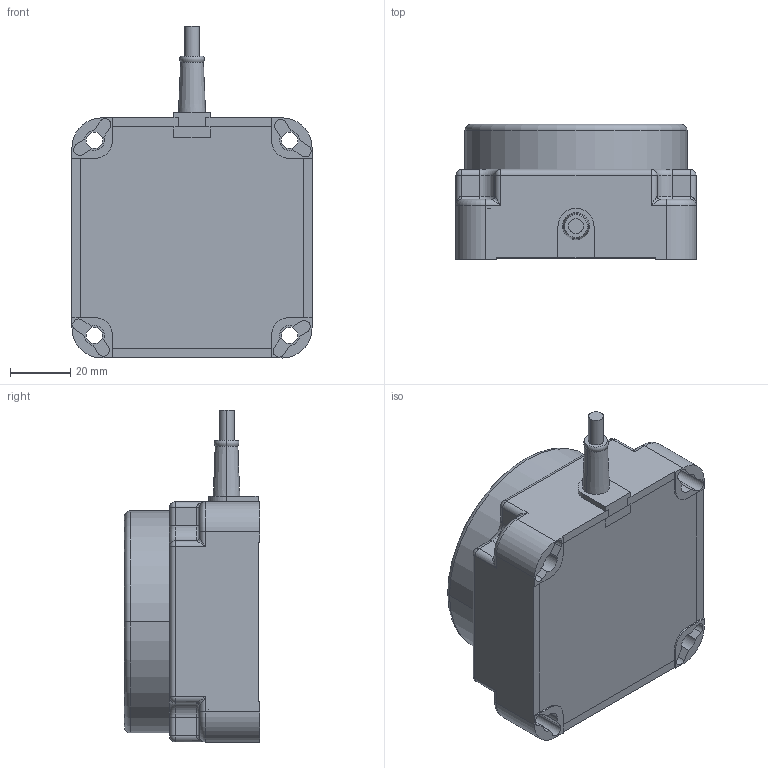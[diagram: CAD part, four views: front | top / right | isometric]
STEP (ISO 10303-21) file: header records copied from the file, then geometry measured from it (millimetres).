
FILE_DESCRIPTION (( 'STEP AP214' ), '1' );
FILE_NAME ('AS80-50DN3_AS80-50DP3.STEP', '2019-06-05T01:14:53', ( '' ), ( '' ), 'SwSTEP 2.0', 'SolidWorks 2018', '' );
FILE_SCHEMA (( 'AUTOMOTIVE_DESIGN' ));
Length unit declared in the file: millimetre
Products named in the file (1): AS80-50DN3_AS80-50DP3
Bounding box: 80 x 45 x 110.6 mm (x, y, z)
Volume: 241294.2 mm3; surface area: 27962.8 mm2
Topology: 1 solids, 1 shells, 190 faces, 481 edges, 284 vertices
Faces by surface type: cylinder 87, plane 63, torus 16, sphere 10, bspline 8, cone 6
Entity records: 6082 total; most frequent: CARTESIAN_POINT 1306, DIRECTION 995, ORIENTED_EDGE 918, EDGE_CURVE 459, AXIS2_PLACEMENT_3D 369, VERTEX_POINT 280, VECTOR 257, LINE 257
